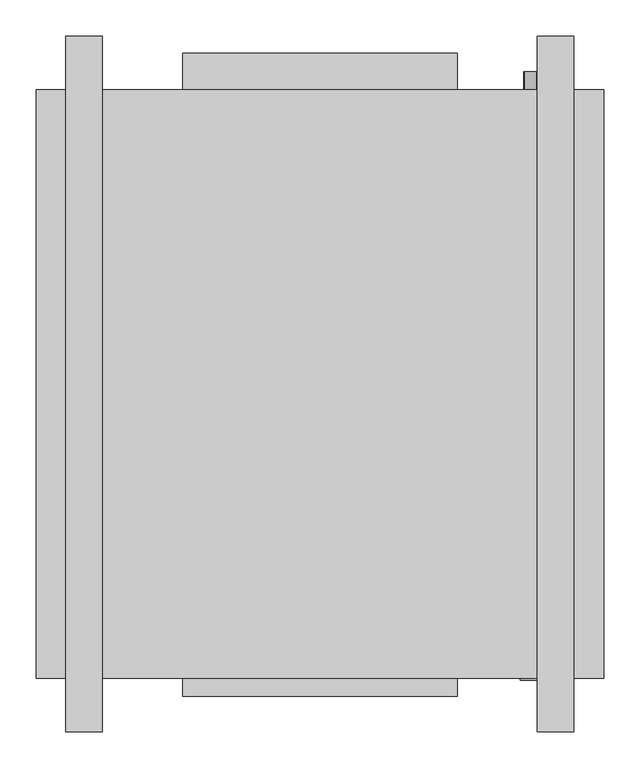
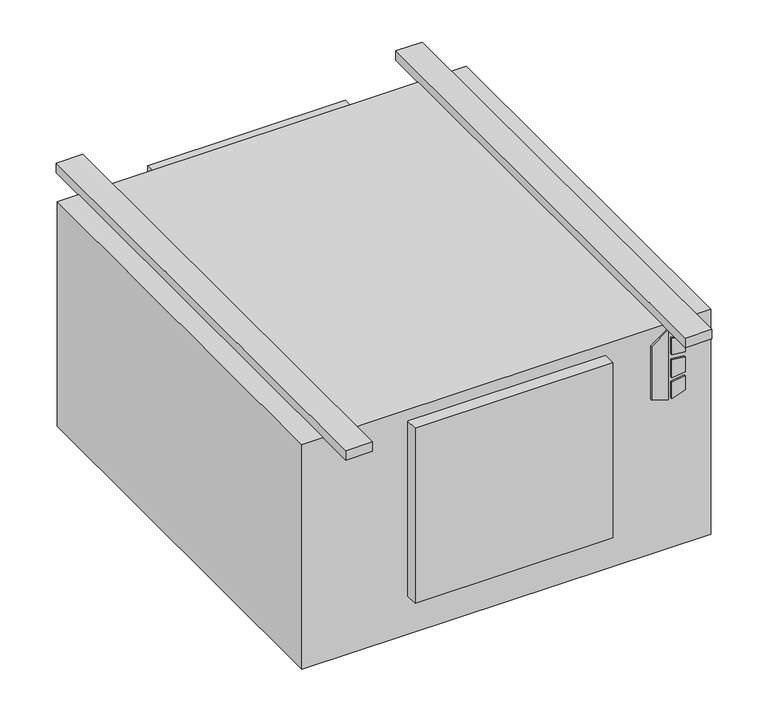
"""IFC4 building model written with IfcOpenShell, lengths in millimetres: proxy geometry, Concealed_High_Capacity_Horizontal_Cabinet_Fan_Coil_Unit_-_HXY_-_IEC_-_2-Pipe_Cool-EHeat_RH_2022 : Size 06 - 277v/60Hz/1Ph - 6 Row 4.0kW."""

import ifcopenshell
import ifcopenshell.guid

model = None  # the IFC model being written
_history = None  # IfcOwnerHistory: only IFC2X3 demands one
_inside = {}  # id of a spatial element -> (the spatial element, [elements in it])
_under = {}  # id of a project, library or spatial element -> (it, [spatial elements below it])
_declared = {}  # id of a project -> (the project, [libraries it declares])
_typed = {}  # id of a type object -> (the type object, [elements of that type])
_made_of = {}  # id of a material, layer set ... -> (it, [elements and type objects made of it])


def new_model(schema):
    """Start an empty IFC model of exactly this schema.

    Asked for "IFC4X3", IfcOpenShell would pick the latest addendum, in which some entities
    have other attributes; the version numbers below select the first issue.
    IFC2X3 requires an IfcOwnerHistory on every rooted entity: one is made here for all.
    """
    global model, _history
    if schema == "IFC4X3":
        model = ifcopenshell.file(schema_version=(4, 3, 0, 0))
    else:
        model = ifcopenshell.file(schema=schema)
    _inside.clear()
    _under.clear()
    _declared.clear()
    _typed.clear()
    _made_of.clear()
    _history = None
    if model.schema == "IFC2X3":
        org = make("IfcOrganization", Name="unknown")
        user = make(
            "IfcPersonAndOrganization",
            ThePerson=make("IfcPerson", FamilyName="unknown"),
            TheOrganization=org,
        )
        app = make(
            "IfcApplication",
            ApplicationDeveloper=org,
            Version="unknown",
            ApplicationFullName="unknown",
            ApplicationIdentifier="unknown",
        )
        _history = make(
            "IfcOwnerHistory",
            OwningUser=user,
            OwningApplication=app,
            ChangeAction="ADDED",
            CreationDate=0,
        )
    return model


def make(cls, **values):
    """One entity of the class cls with the attributes given. An attribute that is None is left unset."""
    return model.create_entity(
        cls, **{name: value for name, value in values.items() if value is not None}
    )


def rooted(cls, **values):
    """An entity with a GlobalId (a new one), such as an element, a storey or a relation."""
    return make(cls, GlobalId=ifcopenshell.guid.new(), OwnerHistory=_history, **values)


def si_unit(unit_type, name, prefix=None):
    """IfcSIUnit, for example si_unit("LENGTHUNIT", "METRE", prefix="MILLI")."""
    return make("IfcSIUnit", UnitType=unit_type, Prefix=prefix, Name=name)


def assignment(units):
    """IfcUnitAssignment: the units of a project."""
    return None if units is None else make("IfcUnitAssignment", Units=units)


def point(xyz):
    """IfcCartesianPoint."""
    return None if xyz is None else make("IfcCartesianPoint", Coordinates=xyz)


def direction(xyz):
    """IfcDirection."""
    return None if xyz is None else make("IfcDirection", DirectionRatios=xyz)


def frame(location, z_axis=None, x_axis=None):
    """IfcAxis2Placement3D, a coordinate frame: its origin and axes. An axis left out is left unset."""
    return make(
        "IfcAxis2Placement3D",
        Location=point(location),
        Axis=direction(z_axis),
        RefDirection=direction(x_axis),
    )


def frame_2d(location, x_axis=None):
    """IfcAxis2Placement2D, a coordinate frame in the plane: its origin and x axis."""
    return make(
        "IfcAxis2Placement2D", Location=point(location), RefDirection=direction(x_axis)
    )


def origin():
    """The frame at (0, 0, 0) with its axes left unset."""
    return frame((0.0, 0.0, 0.0))


def origin_with_axes():
    """The frame at (0, 0, 0) with the z axis (0, 0, 1) and the x axis (1, 0, 0) written out."""
    return frame((0.0, 0.0, 0.0), z_axis=(0.0, 0.0, 1.0), x_axis=(1.0, 0.0, 0.0))


def place(relative_to, where):
    """IfcLocalPlacement: puts the frame where relative to a parent placement (None: the world)."""
    return make(
        "IfcLocalPlacement", PlacementRelTo=relative_to, RelativePlacement=where
    )


def context(
    kind, dimensions, precision=None, world=None, true_north=None, identifier=None
):
    """IfcGeometricRepresentationContext, for example the 3D "Model" context."""
    return make(
        "IfcGeometricRepresentationContext",
        ContextIdentifier=identifier,
        ContextType=kind,
        CoordinateSpaceDimension=dimensions,
        Precision=precision,
        WorldCoordinateSystem=world,
        TrueNorth=true_north,
    )


def project(units=None, contexts=None):
    """IfcProject with its units and contexts."""
    return rooted(
        "IfcProject",
        Name="project",
        RepresentationContexts=contexts,
        UnitsInContext=assignment(units),
    )


def spatial(cls, under=None, at=None, **own):
    """A site, building, storey or space (cls), placed at a placement, below another one or the project."""
    s = rooted(cls, ObjectPlacement=at, **own)
    if under is not None:
        _under.setdefault(under.id(), (under, []))[1].append(s)
    return s


def polyline(points):
    """IfcPolyline through the points."""
    return make("IfcPolyline", Points=[point(p) for p in points])


def circle_curve(where, radius):
    """IfcCircle in the frame where."""
    return make("IfcCircle", Position=where, Radius=radius)


def trimmed(basis, trim1, trim2, sense, master):
    """IfcTrimmedCurve: the piece of a basis curve between two trims."""
    return make(
        "IfcTrimmedCurve",
        BasisCurve=basis,
        Trim1=trim1,
        Trim2=trim2,
        SenseAgreement=sense,
        MasterRepresentation=master,
    )


def segment(curve, same_sense, transition):
    """IfcCompositeCurveSegment."""
    return make(
        "IfcCompositeCurveSegment",
        Transition=transition,
        SameSense=same_sense,
        ParentCurve=curve,
    )


def composite_curve(segments, self_intersect=None):
    """IfcCompositeCurve: segments joined end to end."""
    return make("IfcCompositeCurve", Segments=segments, SelfIntersect=self_intersect)


def outline(outer, holes=None, kind="AREA"):
    """IfcArbitraryClosedProfileDef: a profile drawn as a closed curve; with holes, ...WithVoids."""
    if holes is None:
        return make("IfcArbitraryClosedProfileDef", ProfileType=kind, OuterCurve=outer)
    return make(
        "IfcArbitraryProfileDefWithVoids",
        ProfileType=kind,
        OuterCurve=outer,
        InnerCurves=holes,
    )


def extrude(swept, where, along, depth):
    """IfcExtrudedAreaSolid: the profile swept, set in the frame where, extruded along a direction by depth."""
    return make(
        "IfcExtrudedAreaSolid",
        SweptArea=swept,
        Position=where,
        ExtrudedDirection=direction(along),
        Depth=depth,
    )


def shape(context_of_items, identifier, shape_type, items):
    """IfcShapeRepresentation: the items that make up one representation, for example the "Body"."""
    return make(
        "IfcShapeRepresentation",
        ContextOfItems=context_of_items,
        RepresentationIdentifier=identifier,
        RepresentationType=shape_type,
        Items=items,
    )


def source(mapping_origin, context_of_items, identifier, shape_type, items):
    """IfcRepresentationMap: a shape defined once, which mapped items show again and again."""
    return make(
        "IfcRepresentationMap",
        MappingOrigin=mapping_origin,
        MappedRepresentation=shape(context_of_items, identifier, shape_type, items),
    )


def transform(
    local_origin,
    x_axis=None,
    y_axis=None,
    z_axis=None,
    scale=None,
    scale2=None,
    scale3=None,
    uniform=True,
):
    """IfcCartesianTransformationOperator3D, or its non-uniform kind. x_axis, y_axis, z_axis: its Axis1, 2, 3."""
    if uniform:
        return make(
            "IfcCartesianTransformationOperator3D",
            Axis1=direction(x_axis),
            Axis2=direction(y_axis),
            LocalOrigin=point(local_origin),
            Scale=scale,
            Axis3=direction(z_axis),
        )
    return make(
        "IfcCartesianTransformationOperator3DnonUniform",
        Axis1=direction(x_axis),
        Axis2=direction(y_axis),
        LocalOrigin=point(local_origin),
        Scale=scale,
        Axis3=direction(z_axis),
        Scale2=scale2,
        Scale3=scale3,
    )


def mapped(mapping_source, mapping_target):
    """IfcMappedItem: shows the shape of a source again, moved by a transform."""
    return make(
        "IfcMappedItem", MappingSource=mapping_source, MappingTarget=mapping_target
    )


def made_of(thing, what):
    """Note that an element or type object is made of a material, layer set ...; save() writes the relation."""
    if what is not None:
        _made_of.setdefault(what.id(), (what, []))[1].append(thing)
    return thing


def element(
    cls,
    number,
    at=None,
    inside=None,
    cuts=None,
    type_object=None,
    material=None,
    context=None,
    identifier="Body",
    shape_type=None,
    held_by="IfcProductDefinitionShape",
    body=None,
    shapes=None,
    **own,
):
    """One element of the class cls, such as IfcWall. Its Tag is "e" and its number.

    at: its placement. inside: the storey or other place that contains it. cuts: it is an
    opening in that element (IfcRelVoidsElement). A single representation is given by context,
    identifier, shape_type and body (its items); several are given by shapes. held_by: the class
    of the entity that holds the representations. save() writes the other relations.
    """
    e = rooted(cls, Tag="e%d" % number, ObjectPlacement=at, **own)
    if body is not None:
        shapes = [shape(context, identifier, shape_type, body)]
    if shapes is not None:
        e.Representation = make(held_by, Representations=shapes)
    if inside is not None:
        _inside.setdefault(inside.id(), (inside, []))[1].append(e)
    if cuts is not None:
        rooted(
            "IfcRelVoidsElement", RelatingBuildingElement=cuts, RelatedOpeningElement=e
        )
    if type_object is not None:
        _typed.setdefault(type_object.id(), (type_object, []))[1].append(e)
    return made_of(e, material)


def aggregate(whole, parts):
    """IfcRelAggregates: a whole, such as a stair, and the parts it consists of."""
    return rooted("IfcRelAggregates", RelatingObject=whole, RelatedObjects=parts)


def save(model, path):
    """Write the relations noted so far, then the file.

    IfcRelAggregates (storeys below a building ...), IfcRelContainedInSpatialStructure (elements
    in a storey), IfcRelDefinesByType, IfcRelAssociatesMaterial and IfcRelDeclares: one each for
    every whole, place, type object, material and project.
    """
    for whole, parts in _under.values():
        aggregate(whole, parts)
    for where, things in _inside.values():
        rooted(
            "IfcRelContainedInSpatialStructure",
            RelatedElements=things,
            RelatingStructure=where,
        )
    for kind, things in _typed.values():
        rooted("IfcRelDefinesByType", RelatedObjects=things, RelatingType=kind)
    for what, things in _made_of.values():
        rooted("IfcRelAssociatesMaterial", RelatedObjects=things, RelatingMaterial=what)
    for by, libraries in _declared.values():
        rooted("IfcRelDeclares", RelatingContext=by, RelatedDefinitions=libraries)
    model.write(path)


def mechanical_equipment_047bc574(model_context):
    return source(origin(), model_context, "Body", "SweptSolid", [
        extrude(outline(polyline([(-142.4519297, 430.2868862), (-152.4, 462.4602728), (-10.2290756, 462.4602728), (-33.2510817, 430.2868862), (-142.4519297, 430.2868862)])), frame((0.0, -649.2875, 0.0), z_axis=(0.0, 1.0, 0.0), x_axis=(0.0, 0.0, 1.0)), (0.0, 0.0, 1.0), 3.175),
        extrude(outline(polyline([(-63.4526443, 469.2186058), (-66.6550368, 495.3), (-37.4261958, 495.3), (-29.3617807, 469.2186058), (-63.4526443, 469.2186058)])), frame((0.0, -649.2875, 0.0), z_axis=(0.0, 1.0, 0.0), x_axis=(0.0, 0.0, 1.0)), (0.0, 0.0, 1.0), 3.175),
        extrude(outline(polyline([(-115.3161712, 495.3), (-118.9816721, 469.2186058), (-152.4, 469.2186058), (-143.7657628, 495.3), (-115.3161712, 495.3)])), frame((0.0, -649.2875, 0.0), z_axis=(0.0, 1.0, 0.0), x_axis=(0.0, 0.0, 1.0)), (0.0, 0.0, 1.0), 3.175),
        extrude(outline(polyline([(-76.0010097, 495.3), (-73.7191834, 469.2186058), (-109.6567319, 469.2186058), (-106.9154669, 495.3), (-76.0010097, 495.3)])), frame((0.0, -649.2875, 0.0), z_axis=(0.0, 1.0, 0.0), x_axis=(0.0, 0.0, 1.0)), (0.0, 0.0, 1.0), 3.175),
        extrude(outline(composite_curve([segment(trimmed(circle_curve(frame_2d((-406.4, 444.5)), 9.525), [point((-406.4, 434.975))], [point((-406.4, 454.025))], False, "CARTESIAN"), True, "CONTINUOUS"), segment(trimmed(circle_curve(frame_2d((-406.4, 444.5)), 9.525), [point((-406.4, 454.025))], [point((-406.4, 434.975))], False, "CARTESIAN"), True, "CONTINUOUS")], self_intersect=False)), frame((0.0, 169.8625, 0.0), z_axis=(0.0, 1.0, 0.0), x_axis=(0.0, 0.0, 1.0)), (0.0, 0.0, 1.0), 25.4),
        extrude(outline(composite_curve([segment(trimmed(circle_curve(frame_2d((-330.2, 444.5)), 7.9375), [point((-330.2, 436.5625))], [point((-330.2, 452.4375))], False, "CARTESIAN"), True, "CONTINUOUS"), segment(trimmed(circle_curve(frame_2d((-330.2, 444.5)), 7.9375), [point((-330.2, 452.4375))], [point((-330.2, 436.5625))], False, "CARTESIAN"), True, "CONTINUOUS")], self_intersect=False)), frame((0.0, 169.8625, 0.0), z_axis=(0.0, 1.0, 0.0), x_axis=(0.0, 0.0, 1.0)), (0.0, 0.0, 1.0), 25.4),
        extrude(outline(composite_curve([segment(trimmed(circle_curve(frame_2d((-254.0, 444.5)), 7.9375), [point((-254.0, 436.5625))], [point((-254.0, 452.4375))], False, "CARTESIAN"), True, "CONTINUOUS"), segment(trimmed(circle_curve(frame_2d((-254.0, 444.5)), 7.9375), [point((-254.0, 452.4375))], [point((-254.0, 436.5625))], False, "CARTESIAN"), True, "CONTINUOUS")], self_intersect=False)), frame((0.0, 169.8625, 0.0), z_axis=(0.0, 1.0, 0.0), x_axis=(0.0, 0.0, 1.0)), (0.0, 0.0, 1.0), 25.4),
        extrude(outline(polyline([(546.1, 169.8625), (546.1, -646.1125), (-241.3, -646.1125), (-241.3, 169.8625), (546.1, 169.8625)])), frame((0.0, 0.0, -457.2), z_axis=(0.0, 0.0, 1.0), x_axis=(1.0, 0.0, 0.0)), (0.0, 0.0, 1.0), 457.2),
        extrude(outline(polyline([(-38.1, 220.6625), (342.9, 220.6625), (342.9, 169.8625), (-38.1, 169.8625), (-38.1, 220.6625)])), frame((0.0, 0.0, -377.825), z_axis=(0.0, 0.0, 1.0), x_axis=(1.0, 0.0, 0.0)), (0.0, 0.0, 1.0), 349.25),
        extrude(outline(polyline([(-149.225, 244.475), (-149.225, -720.725), (-200.025, -720.725), (-200.025, 244.475), (-149.225, 244.475)])), origin_with_axes(), (0.0, 0.0, 1.0), 19.05),
        extrude(outline(polyline([(504.825, 244.475), (504.825, -720.725), (454.025, -720.725), (454.025, 244.475), (504.825, 244.475)])), origin_with_axes(), (0.0, 0.0, 1.0), 19.05),
        extrude(outline(polyline([(342.9, -671.5125), (-38.1, -671.5125), (-38.1, -646.1125), (342.9, -646.1125), (342.9, -671.5125)])), frame((0.0, 0.0, -377.825), z_axis=(0.0, 0.0, 1.0), x_axis=(1.0, 0.0, 0.0)), (0.0, 0.0, 1.0), 355.6),
    ])


if __name__ == "__main__":
    model = new_model("IFC4")
    model_context = context("Model", 3, world=origin())
    ifc_project = project(units=[si_unit("LENGTHUNIT", "METRE", prefix="MILLI")], contexts=[model_context])
    site = spatial("IfcSite", under=ifc_project)
    building = spatial("IfcBuilding", under=site)
    placement = place(None, origin())
    mechanical_equipment_shape = mechanical_equipment_047bc574(model_context)
    element("IfcBuildingElementProxy", 1, Name="Concealed_High_Capacity_Horizontal_Cabinet_Fan_Coil_Unit_-_HXY_-_IEC_-_2-Pipe_Cool-EHeat_RH_2022 : Size 06 - 277v/60Hz/1Ph - 6 Row 4.0kW", ObjectType="Concealed_High_Capacity_Horizontal_Cabinet_Fan_Coil_Unit_-_HXY_-_IEC_-_2-Pipe_Cool-EHeat_RH_2022 : Size 06 - 277v/60Hz/1Ph - 6 Row 4.0kW", at=placement, inside=building, context=model_context, shape_type="MappedRepresentation", body=[
        mapped(mechanical_equipment_shape, transform((0.0, 0.0, 0.0), x_axis=(1.0, 0.0, 0.0), y_axis=(0.0, 1.0, 0.0), z_axis=(0.0, 0.0, 1.0))),
    ])
    save(model, "model.ifc")
